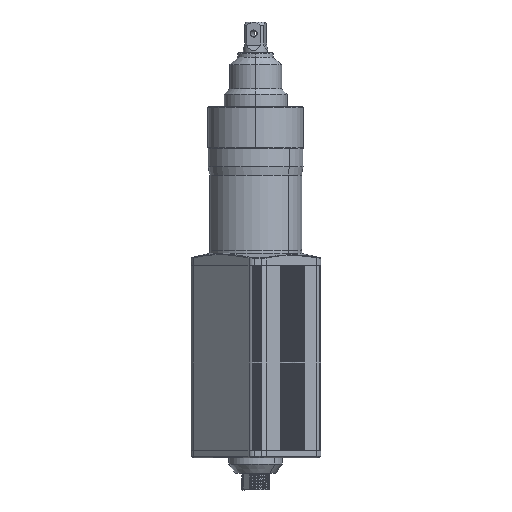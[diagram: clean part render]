
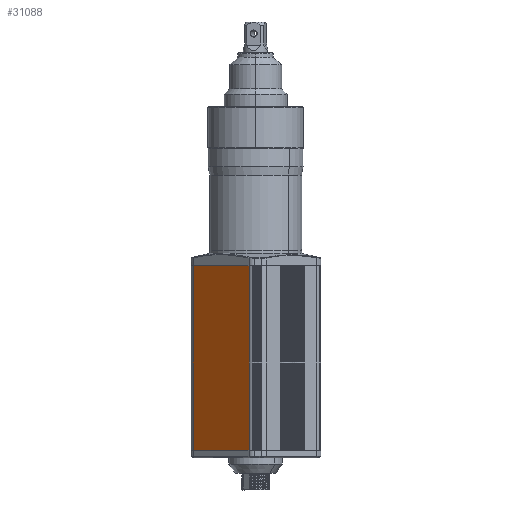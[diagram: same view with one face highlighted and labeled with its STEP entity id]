
A CAD part, left-side view. The second image highlights one B-rep face of the part: STEP entity #31088.
In plain terms, the highlighted planar face has unit normal (-0.707, 0.707, 0).
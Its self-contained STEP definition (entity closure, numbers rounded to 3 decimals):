
#577 = CARTESIAN_POINT ( 'NONE',  ( -4.293, 40.538, -76.5 ) ) ;
#1728 = DIRECTION ( 'NONE',  ( 0., 0., 1. ) ) ;
#3111 = DIRECTION ( 'NONE',  ( -0.707, -0.707, 0. ) ) ;
#3181 = ORIENTED_EDGE ( 'NONE', *, *, #32071, .F. ) ;
#3303 = CARTESIAN_POINT ( 'NONE',  ( -4.293, 40.538, -196.5 ) ) ;
#5647 = CARTESIAN_POINT ( 'NONE',  ( -4.293, 40.538, -76.5 ) ) ;
#6027 = PLANE ( 'NONE',  #29836 ) ;
#7764 = ORIENTED_EDGE ( 'NONE', *, *, #17338, .T. ) ;
#7903 = VECTOR ( 'NONE', #31839, 1000. ) ;
#8394 = CARTESIAN_POINT ( 'NONE',  ( -4.293, 40.538, -76.5 ) ) ;
#9196 = CARTESIAN_POINT ( 'NONE',  ( -4.293, 40.538, -196.5 ) ) ;
#9342 = EDGE_CURVE ( 'NONE', #23868, #29958, #13347, .T. ) ;
#10722 = LINE ( 'NONE', #577, #16918 ) ;
#13232 = DIRECTION ( 'NONE',  ( 0., 0., -1. ) ) ;
#13347 = LINE ( 'NONE', #13685, #7903 ) ;
#13685 = CARTESIAN_POINT ( 'NONE',  ( -40.538, 4.293, -76.5 ) ) ;
#15895 = ORIENTED_EDGE ( 'NONE', *, *, #28967, .T. ) ;
#16918 = VECTOR ( 'NONE', #13232, 1000. ) ;
#17338 = EDGE_CURVE ( 'NONE', #23567, #29958, #18674, .T. ) ;
#18452 = ORIENTED_EDGE ( 'NONE', *, *, #9342, .F. ) ;
#18674 = LINE ( 'NONE', #3303, #29574 ) ;
#18859 = FACE_OUTER_BOUND ( 'NONE', #23648, .T. ) ;
#19826 = CARTESIAN_POINT ( 'NONE',  ( -40.538, 4.293, -76.5 ) ) ;
#22343 = DIRECTION ( 'NONE',  ( -0.707, -0.707, 0. ) ) ;
#22717 = CARTESIAN_POINT ( 'NONE',  ( -4.293, 40.538, -76.5 ) ) ;
#23439 = VECTOR ( 'NONE', #3111, 1000. ) ;
#23567 = VERTEX_POINT ( 'NONE', #9196 ) ;
#23648 = EDGE_LOOP ( 'NONE', ( #7764, #18452, #3181, #15895 ) ) ;
#23868 = VERTEX_POINT ( 'NONE', #19826 ) ;
#26898 = DIRECTION ( 'NONE',  ( 0.707, -0.707, 0. ) ) ;
#28703 = LINE ( 'NONE', #5647, #23439 ) ;
#28967 = EDGE_CURVE ( 'NONE', #29979, #23567, #10722, .T. ) ;
#29574 = VECTOR ( 'NONE', #22343, 1000. ) ;
#29836 = AXIS2_PLACEMENT_3D ( 'NONE', #8394, #26898, #1728 ) ;
#29958 = VERTEX_POINT ( 'NONE', #32955 ) ;
#29979 = VERTEX_POINT ( 'NONE', #22717 ) ;
#31088 = ADVANCED_FACE ( 'NONE', ( #18859 ), #6027, .F. ) ;
#31839 = DIRECTION ( 'NONE',  ( 0., 0., -1. ) ) ;
#32071 = EDGE_CURVE ( 'NONE', #29979, #23868, #28703, .T. ) ;
#32955 = CARTESIAN_POINT ( 'NONE',  ( -40.538, 4.293, -196.5 ) ) ;
